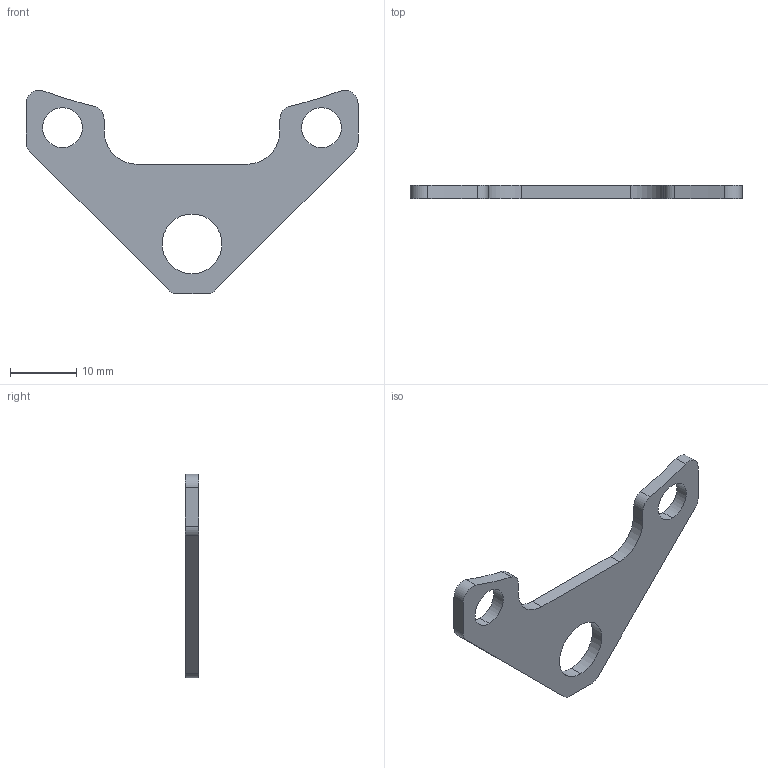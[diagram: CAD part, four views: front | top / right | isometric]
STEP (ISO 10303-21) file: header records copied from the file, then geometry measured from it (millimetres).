
FILE_DESCRIPTION (( 'STEP AP214' ), '1' );
FILE_NAME ('NTS307-B-DOG.STEP', '2025-01-09T07:54:50', ( '' ), ( '' ), 'SwSTEP 2.0', 'SolidWorks 2022', '' );
FILE_SCHEMA (( 'AUTOMOTIVE_DESIGN' ));
Length unit declared in the file: millimetre
Products named in the file (1): NTS307-B-DOG
Bounding box: 50 x 2 x 30.64 mm (x, y, z)
Volume: 1223.9 mm3; surface area: 1647.3 mm2
Topology: 1 solids, 1 shells, 28 faces, 78 edges, 52 vertices
Faces by surface type: cylinder 18, plane 10
Entity records: 964 total; most frequent: DIRECTION 172, CARTESIAN_POINT 159, ORIENTED_EDGE 156, EDGE_CURVE 78, AXIS2_PLACEMENT_3D 65, VERTEX_POINT 52, VECTOR 42, LINE 42
